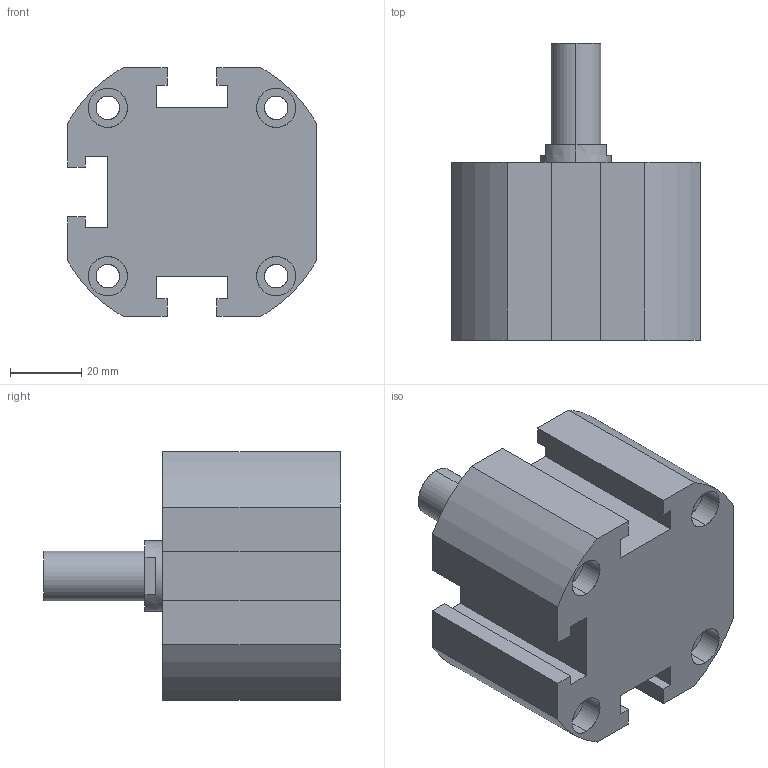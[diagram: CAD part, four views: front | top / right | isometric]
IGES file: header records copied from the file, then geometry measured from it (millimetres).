
Start section: SolidWorks IGES file using analytic representation for surfaces
Global section: file name: C:\Users\Toshiba\Desktop\XG#M1-50D-10.IGS; native system: SolidWorks 2014; preprocessor: SolidWorks 2014; author: Toshiba; date: 160524.100926; units: millimetre
Bounding box: 70 x 83.5 x 70 mm (x, y, z)
Surface area: 32260.9 mm2 (no closed solid volume)
Topology: 0 solids, 0 shells, 106 faces, 1946 edges, 1944 vertices
Faces by surface type: revolution 56, bspline 50
